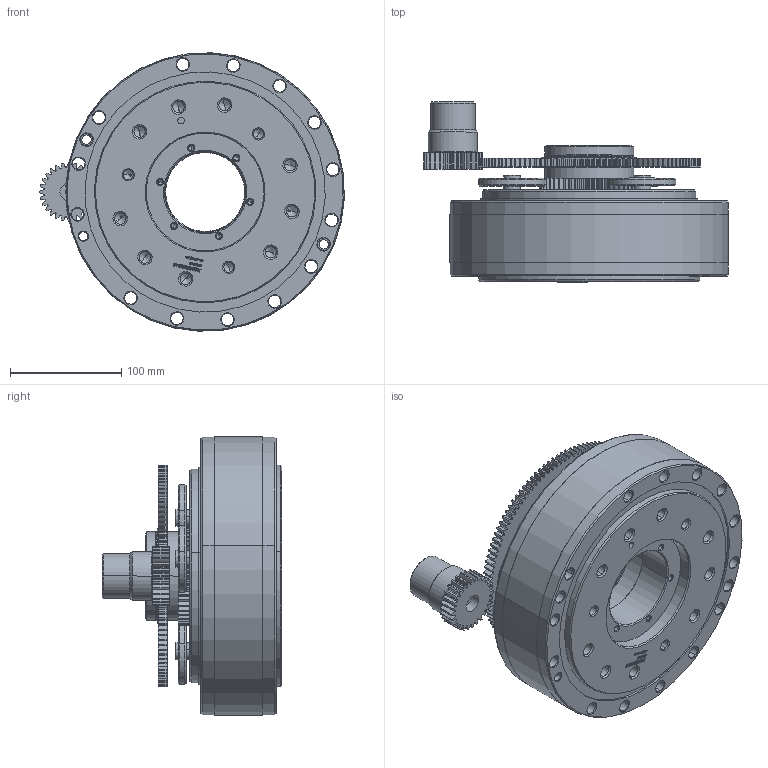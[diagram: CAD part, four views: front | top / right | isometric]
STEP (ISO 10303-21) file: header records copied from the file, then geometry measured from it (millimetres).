
FILE_DESCRIPTION (( 'STEP AP214' ), '1' );
FILE_NAME ('100CBX-op-147k-STD00.STEP', '2022-11-12T11:13:00', ( '' ), ( '' ), 'SwSTEP 2.0', 'SolidWorks 2020', '' );
FILE_SCHEMA (( 'AUTOMOTIVE_DESIGN' ));
Length unit declared in the file: millimetre
Products named in the file (7): 笢陑喘謫-100C-STD.stp; 100CBX-OP00.stp; 100CBX-op-147k-STD00.stp; 粣創 61816-2LS GB_T 276-94.stp; 淏喘謫11.stp; 錨璃28^100CBX-op-147k-STD00; 100CBX-op-147k-STD00
Assembly tree (6 placements, depth 3):
  100CBX-op-147k-STD00
    100CBX-op-147k-STD00.stp
      100CBX-OP00.stp
      笢陑喘謫-100C-STD.stp
      粣創 61816-2LS GB_T 276-94.stp
      淏喘謫11.stp
    錨璃28^100CBX-op-147k-STD00
Bounding box: 273.87 x 161.7 x 250.25 mm (x, y, z)
Volume: 3510825.5 mm3; surface area: 383228.8 mm2
Topology: 98 solids, 98 shells, 3121 faces, 8535 edges, 5592 vertices
Faces by surface type: plane 1215, cylinder 958, bspline 572, cone 224, torus 98, sphere 54
Entity records: 126520 total; most frequent: CARTESIAN_POINT 47117, ORIENTED_EDGE 16716, DIRECTION 14239, EDGE_CURVE 8358, VERTEX_POINT 5511, AXIS2_PLACEMENT_3D 4761, VECTOR 4717, LINE 4717
